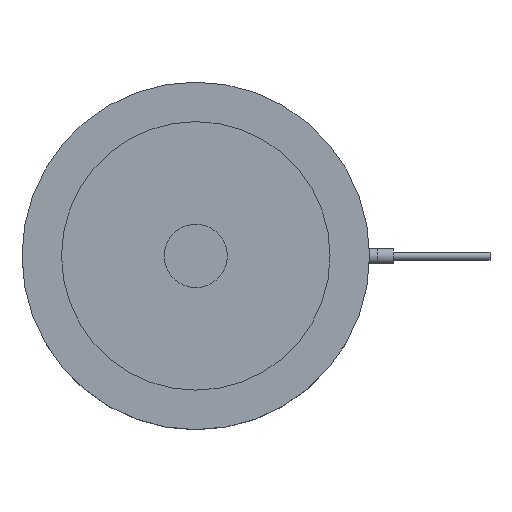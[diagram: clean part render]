
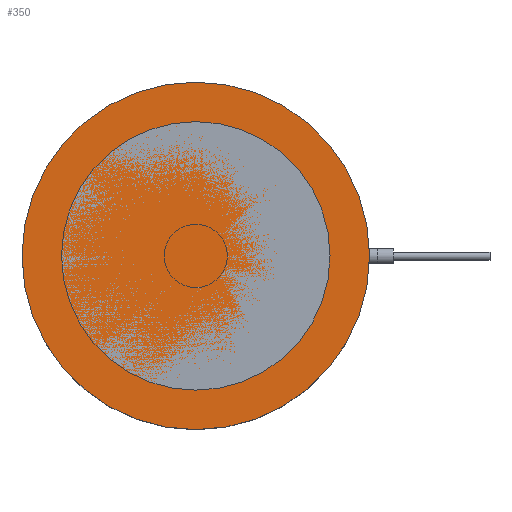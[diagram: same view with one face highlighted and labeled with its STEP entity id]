
A CAD part, top view. The second image highlights one B-rep face of the part: STEP entity #350.
In plain terms, the highlighted planar face has unit normal (0, 0, 1).
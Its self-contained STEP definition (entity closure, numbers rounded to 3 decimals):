
#215=PLANE('',#1190);
#267=FACE_OUTER_BOUND('',#565,.T.);
#350=ADVANCED_FACE('',(#267),#215,.F.);
#565=EDGE_LOOP('',(#777));
#777=ORIENTED_EDGE('',*,*,#976,.F.);
#869=VERTEX_POINT('',#1885);
#976=EDGE_CURVE('',#869,#869,#1046,.T.);
#1046=CIRCLE('',#1189,22.);
#1189=AXIS2_PLACEMENT_3D('',#1884,#1504,#1505);
#1190=AXIS2_PLACEMENT_3D('',#1886,#1506,#1507);
#1504=DIRECTION('',(0.,0.,-1.));
#1505=DIRECTION('',(-1.,0.,0.));
#1506=DIRECTION('',(0.,0.,-1.));
#1507=DIRECTION('',(-1.,0.,0.));
#1884=CARTESIAN_POINT('',(0.,0.,0.));
#1885=CARTESIAN_POINT('',(-22.,0.,0.));
#1886=CARTESIAN_POINT('',(0.,0.,0.));
